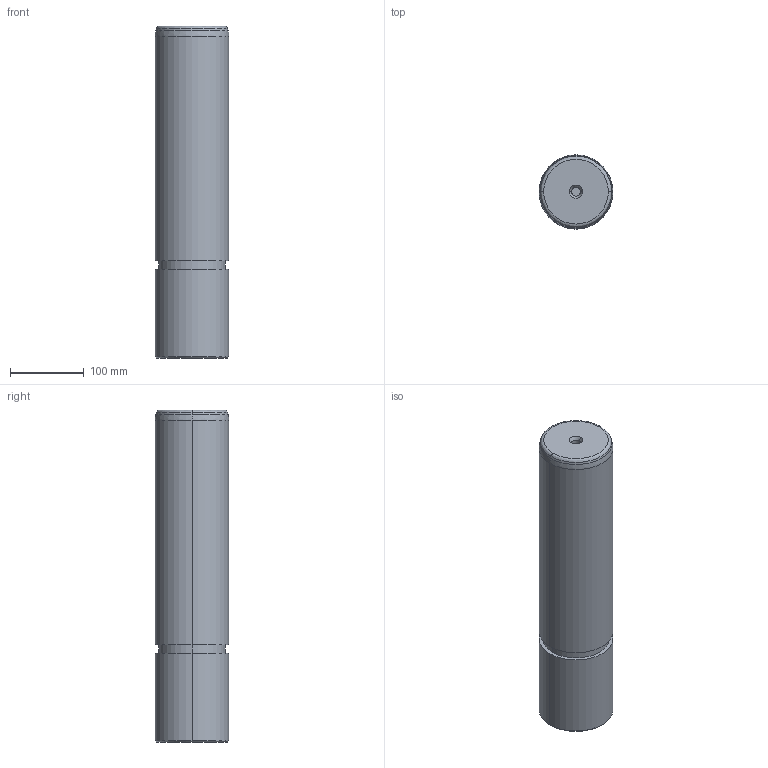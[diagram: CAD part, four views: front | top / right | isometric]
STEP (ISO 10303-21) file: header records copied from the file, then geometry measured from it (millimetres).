
FILE_DESCRIPTION((''),'2;1');
FILE_NAME('','2010-09-08T13:06:12+09:00',('misumi'),(''),'M/STEP i/f 1R2-14','CADmeister v5.1','');
FILE_SCHEMA(('AUTOMOTIVE_DESIGN'));
Length unit declared in the file: millimetre
Products named in the file (1): GPOB100-450
Bounding box: 100 x 100 x 450 mm (x, y, z)
Volume: 3506424.2 mm3; surface area: 159464.7 mm2
Topology: 1 solids, 1 shells, 23 faces, 44 edges, 26 vertices
Faces by surface type: cylinder 8, cone 6, plane 5, revolution 4
Entity records: 690 total; most frequent: DIRECTION 122, CARTESIAN_POINT 104, ORIENTED_EDGE 88, AXIS2_PLACEMENT_3D 52, EDGE_CURVE 44, CIRCLE 32, VERTEX_POINT 26, EDGE_LOOP 26
